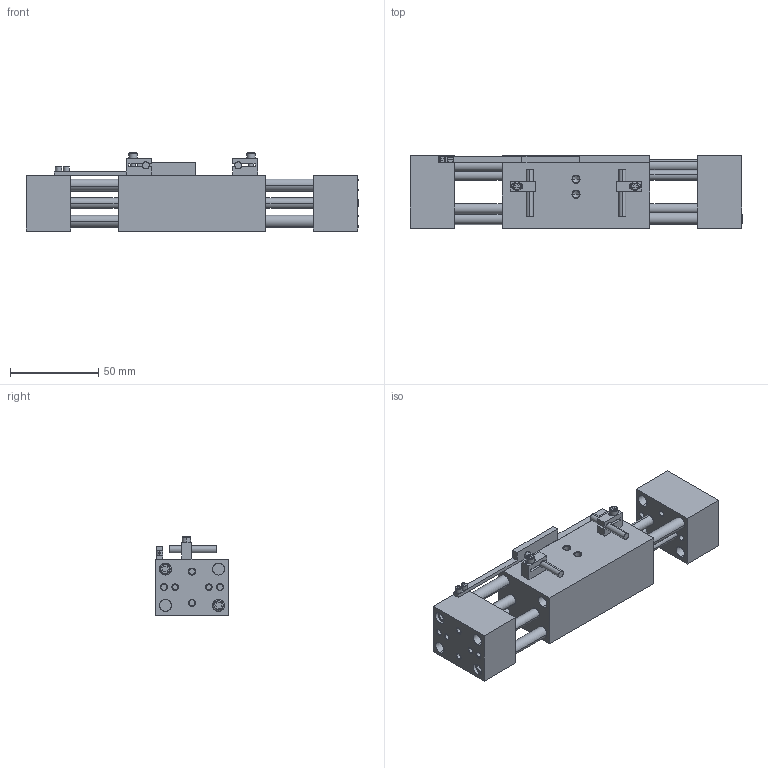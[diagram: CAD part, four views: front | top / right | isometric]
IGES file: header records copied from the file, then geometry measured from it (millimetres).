
Start section: SolidWorks IGES file using analytic representation for surfaces
Global section: file name: C:\Users\cad\Documents\A-my docs\AGW-250-3\iges\AGW-250-3-open.IGS; native system: SolidWorks 2017; preprocessor: SolidWorks 2017; author: cad; date: 200515.142146; units: inch
Bounding box: 187.96 x 41.27 x 44.45 mm (x, y, z)
Surface area: 58666.2 mm2 (no closed solid volume)
Topology: 0 solids, 0 shells, 371 faces, 5306 edges, 5290 vertices
Faces by surface type: revolution 194, bspline 177
